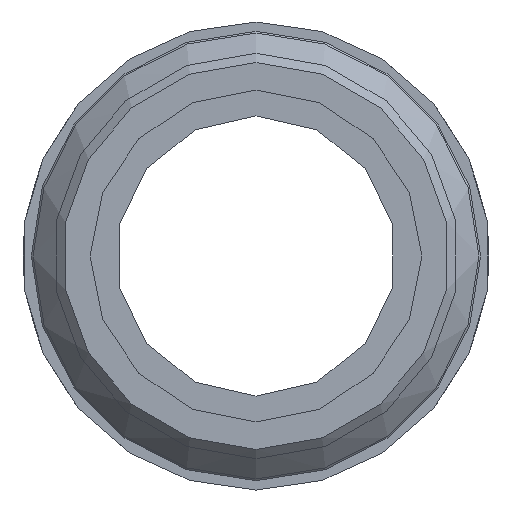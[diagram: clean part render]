
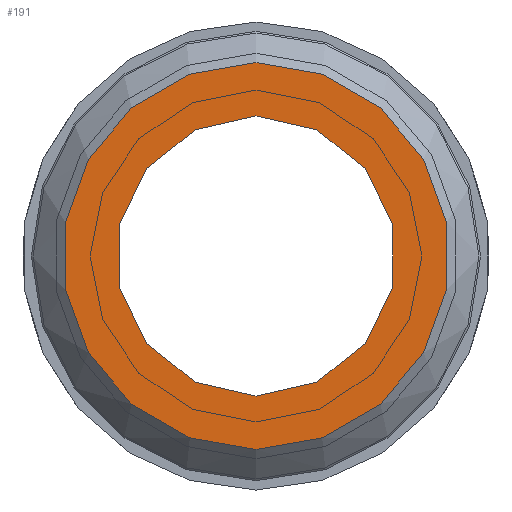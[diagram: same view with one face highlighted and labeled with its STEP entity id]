
A CAD part, front view. The second image highlights one B-rep face of the part: STEP entity #191.
In plain terms, the highlighted planar face has unit normal (0, -1, 0).
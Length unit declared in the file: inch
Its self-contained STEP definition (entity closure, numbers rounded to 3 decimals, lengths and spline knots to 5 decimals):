
#17=FACE_BOUND('',#43,.T.);
#21=PLANE('',#220);
#31=FACE_OUTER_BOUND('',#42,.T.);
#42=EDGE_LOOP('',(#144));
#43=EDGE_LOOP('',(#145,#146));
#65=CIRCLE('',#215,0.0525);
#69=CIRCLE('',#221,0.038);
#70=CIRCLE('',#222,0.038);
#87=VERTEX_POINT('',#322);
#91=VERTEX_POINT('',#334);
#92=VERTEX_POINT('',#335);
#107=EDGE_CURVE('',#87,#87,#65,.T.);
#113=EDGE_CURVE('',#91,#92,#69,.T.);
#114=EDGE_CURVE('',#92,#91,#70,.T.);
#144=ORIENTED_EDGE('',*,*,#107,.F.);
#145=ORIENTED_EDGE('',*,*,#113,.F.);
#146=ORIENTED_EDGE('',*,*,#114,.F.);
#191=ADVANCED_FACE('',(#31,#17),#21,.T.);
#215=AXIS2_PLACEMENT_3D('',#323,#251,#252);
#220=AXIS2_PLACEMENT_3D('',#333,#263,#264);
#221=AXIS2_PLACEMENT_3D('',#336,#265,#266);
#222=AXIS2_PLACEMENT_3D('',#337,#267,#268);
#251=DIRECTION('center_axis',(0.,1.,0.));
#252=DIRECTION('ref_axis',(0.,0.,1.));
#263=DIRECTION('center_axis',(0.,-1.,0.));
#264=DIRECTION('ref_axis',(0.,0.,-1.));
#265=DIRECTION('center_axis',(0.,-1.,0.));
#266=DIRECTION('ref_axis',(1.,0.,0.));
#267=DIRECTION('center_axis',(0.,-1.,0.));
#268=DIRECTION('ref_axis',(1.,0.,0.));
#322=CARTESIAN_POINT('',(0.,0.,-0.0525));
#323=CARTESIAN_POINT('Origin',(0.,0.,0.));
#333=CARTESIAN_POINT('Origin',(0.,0.,-0.038));
#334=CARTESIAN_POINT('',(0.,0.,-0.038));
#335=CARTESIAN_POINT('',(0.,0.,0.038));
#336=CARTESIAN_POINT('Origin',(0.,0.,0.));
#337=CARTESIAN_POINT('Origin',(0.,0.,0.));
